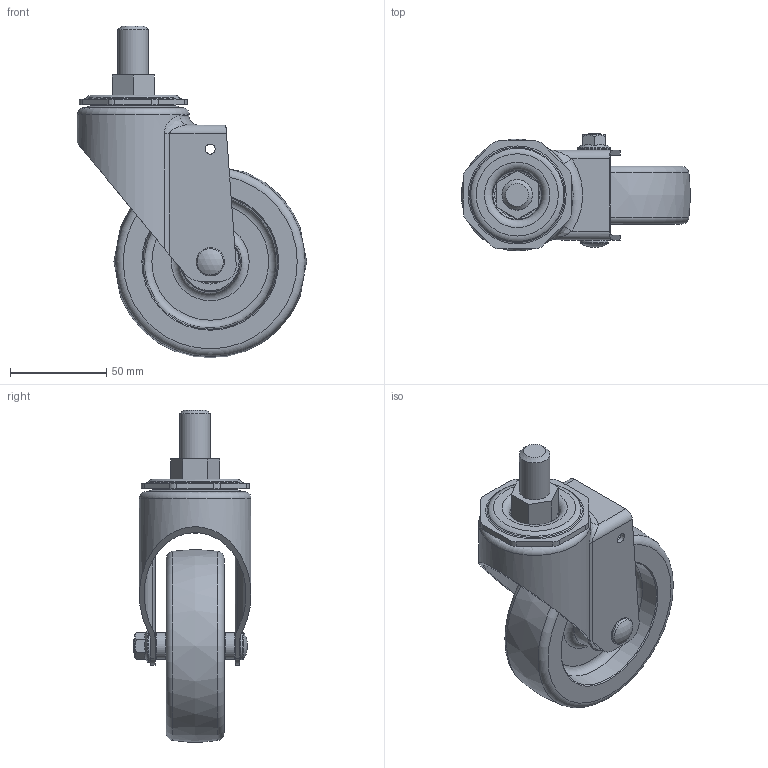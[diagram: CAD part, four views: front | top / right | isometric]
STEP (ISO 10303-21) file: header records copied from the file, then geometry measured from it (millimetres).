
FILE_DESCRIPTION(/* description */ (''),/* implementation_level */ '2;1');
FILE_NAME(/* name */ 'C:\Users\황치선\Desktop\frd\PL-100-ASS-FRD.stp',/* time_stamp */ '2015-07-09T10:22:41+09:00',/* author */ ('황치선'),/* organization */ (''),/* preprocessor_version */ 'ST-DEVELOPER v15.6',/* originating_system */ 'Autodesk Inventor 2015',/* authorisation */ '');
FILE_SCHEMA (('AUTOMOTIVE_DESIGN { 1 0 10303 214 3 1 1 }'));
Length unit declared in the file: centimetre
Products named in the file (1): PL-100-ASS-FRD
Bounding box: 118.96 x 61.24 x 172.3 mm (x, y, z)
Volume: 225674.5 mm3; surface area: 77319.7 mm2
Topology: 1 solids, 5 shells, 365 faces, 858 edges, 528 vertices
Faces by surface type: plane 145, cylinder 122, torus 47, cone 45, bspline 5, sphere 1
Full cylindrical faces by diameter (mm): 5.2 x2, 8 x3, 8.2 x3, 12.5 x1, 13.8 x3, 14.6 x1, 15.875 x1, 17 x1, 19 x1, 22 x2, 24.667 x2, 32.333 x2, 34 x1, 36 x1, 41 x1, 53 x1, 58 x1
Entity records: 10885 total; most frequent: CARTESIAN_POINT 2686, DIRECTION 1678, ORIENTED_EDGE 1450, EDGE_CURVE 725, AXIS2_PLACEMENT_3D 697, EDGE_LOOP 514, VERTEX_POINT 499, STYLED_ITEM 366
